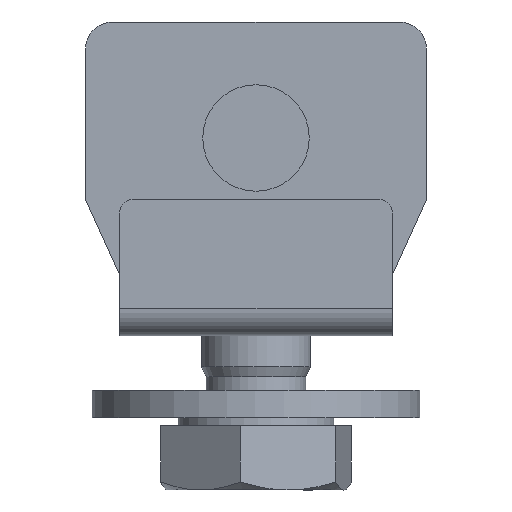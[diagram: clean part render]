
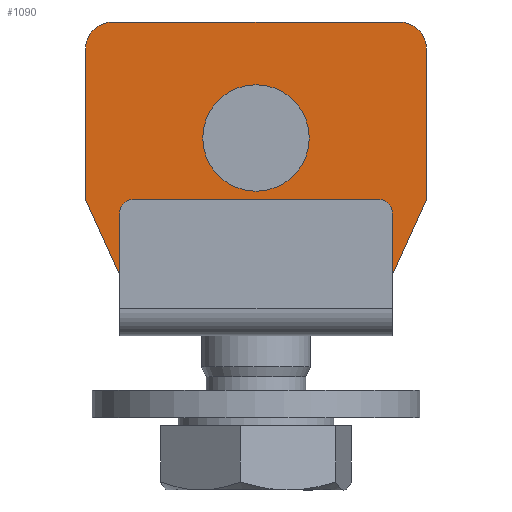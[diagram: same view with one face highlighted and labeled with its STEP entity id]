
A CAD part, left-side view. The second image highlights one B-rep face of the part: STEP entity #1090.
In plain terms, the highlighted planar face has unit normal (-1, 0, 0) as drawn and (1, 0, 0) by its records, which use the part's own axes.
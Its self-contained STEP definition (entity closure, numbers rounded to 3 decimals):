
#94=FACE_BOUND('',#243,.T.);
#163=FACE_OUTER_BOUND('',#242,.T.);
#242=EDGE_LOOP('',(#864,#865,#866,#867,#868,#869,#870,#871,#872,#873));
#243=EDGE_LOOP('',(#874));
#313=LINE('',#1625,#383);
#336=LINE('',#1695,#406);
#341=LINE('',#1709,#411);
#345=LINE('',#1721,#415);
#348=LINE('',#1727,#418);
#351=LINE('',#1733,#421);
#354=LINE('',#1743,#424);
#357=LINE('',#1748,#427);
#383=VECTOR('',#1294,20.);
#406=VECTOR('',#1371,11.);
#411=VECTOR('',#1384,21.);
#415=VECTOR('',#1396,11.);
#418=VECTOR('',#1401,6.042);
#421=VECTOR('',#1406,6.042);
#424=VECTOR('',#1417,2.487);
#427=VECTOR('',#1424,2.487);
#460=CIRCLE('',#1175,2.);
#462=CIRCLE('',#1179,2.);
#464=CIRCLE('',#1185,3.65);
#495=VERTEX_POINT('',#1606);
#500=VERTEX_POINT('',#1617);
#519=VERTEX_POINT('',#1693);
#520=VERTEX_POINT('',#1694);
#523=VERTEX_POINT('',#1702);
#525=VERTEX_POINT('',#1708);
#527=VERTEX_POINT('',#1714);
#529=VERTEX_POINT('',#1720);
#531=VERTEX_POINT('',#1726);
#533=VERTEX_POINT('',#1732);
#535=VERTEX_POINT('',#1738);
#600=EDGE_CURVE('',#500,#495,#313,.T.);
#633=EDGE_CURVE('',#519,#520,#336,.T.);
#637=EDGE_CURVE('',#523,#519,#460,.T.);
#640=EDGE_CURVE('',#525,#523,#341,.T.);
#643=EDGE_CURVE('',#527,#525,#462,.T.);
#646=EDGE_CURVE('',#529,#527,#345,.T.);
#649=EDGE_CURVE('',#531,#529,#348,.T.);
#652=EDGE_CURVE('',#520,#533,#351,.T.);
#655=EDGE_CURVE('',#535,#535,#464,.T.);
#657=EDGE_CURVE('',#500,#531,#354,.T.);
#660=EDGE_CURVE('',#533,#495,#357,.T.);
#864=ORIENTED_EDGE('',*,*,#600,.T.);
#865=ORIENTED_EDGE('',*,*,#660,.F.);
#866=ORIENTED_EDGE('',*,*,#652,.F.);
#867=ORIENTED_EDGE('',*,*,#633,.F.);
#868=ORIENTED_EDGE('',*,*,#637,.F.);
#869=ORIENTED_EDGE('',*,*,#640,.F.);
#870=ORIENTED_EDGE('',*,*,#643,.F.);
#871=ORIENTED_EDGE('',*,*,#646,.F.);
#872=ORIENTED_EDGE('',*,*,#649,.F.);
#873=ORIENTED_EDGE('',*,*,#657,.F.);
#874=ORIENTED_EDGE('',*,*,#655,.T.);
#1036=PLANE('',#1190);
#1090=ADVANCED_FACE('',(#163,#94),#1036,.T.);
#1175=AXIS2_PLACEMENT_3D('',#1703,#1377,#1378);
#1179=AXIS2_PLACEMENT_3D('',#1715,#1389,#1390);
#1185=AXIS2_PLACEMENT_3D('',#1739,#1411,#1412);
#1190=AXIS2_PLACEMENT_3D('',#1749,#1425,#1426);
#1294=DIRECTION('',(0.,1.,0.));
#1371=DIRECTION('',(0.,0.,-1.));
#1377=DIRECTION('center_axis',(-1.,0.,0.));
#1378=DIRECTION('ref_axis',(0.,1.,0.));
#1384=DIRECTION('',(0.,1.,0.));
#1389=DIRECTION('center_axis',(-1.,0.,0.));
#1390=DIRECTION('ref_axis',(0.,0.,
1.));
#1396=DIRECTION('',(0.,0.,1.));
#1401=DIRECTION('',(0.,-0.414,0.91));
#1406=DIRECTION('',(0.,-0.414,-0.91));
#1411=DIRECTION('center_axis',(-1.,0.,0.));
#1412=DIRECTION('ref_axis',(0.,0.,
1.));
#1417=DIRECTION('',(0.,0.,1.));
#1424=DIRECTION('',(0.,0.,-1.));
#1425=DIRECTION('center_axis',(1.,0.,0.));
#1426=DIRECTION('ref_axis',(0.,0.,
-1.));
#1606=CARTESIAN_POINT('',(13.103,10.,2.01));
#1617=CARTESIAN_POINT('',(13.103,-10.,2.01));
#1625=CARTESIAN_POINT('',(13.103,5.,2.01));
#1693=CARTESIAN_POINT('',(13.103,12.5,20.997));
#1694=CARTESIAN_POINT('',(13.103,12.5,9.997));
#1695=CARTESIAN_POINT('',(13.103,12.5,9.997));
#1702=CARTESIAN_POINT('',(13.103,10.5,22.997));
#1703=CARTESIAN_POINT('Origin',(13.103,10.5,20.997));
#1708=CARTESIAN_POINT('',(13.103,-10.5,22.997));
#1709=CARTESIAN_POINT('',(13.103,10.5,22.997));
#1714=CARTESIAN_POINT('',(13.103,-12.5,20.997));
#1715=CARTESIAN_POINT('Origin',(13.103,-10.5,20.997));
#1720=CARTESIAN_POINT('',(13.103,-12.5,9.997));
#1721=CARTESIAN_POINT('',(13.103,-12.5,20.997));
#1726=CARTESIAN_POINT('',(13.103,-10.,4.497));
#1727=CARTESIAN_POINT('',(13.103,-12.5,9.997));
#1732=CARTESIAN_POINT('',(13.103,10.,4.497));
#1733=CARTESIAN_POINT('',(13.103,10.,4.497));
#1738=CARTESIAN_POINT('',(13.103,0.,10.847));
#1739=CARTESIAN_POINT('Origin',(13.103,0.,14.497));
#1743=CARTESIAN_POINT('',(13.103,-10.,4.497));
#1748=CARTESIAN_POINT('',(13.103,10.,-20.103));
#1749=CARTESIAN_POINT('Origin',(13.103,0.,
1.688));
